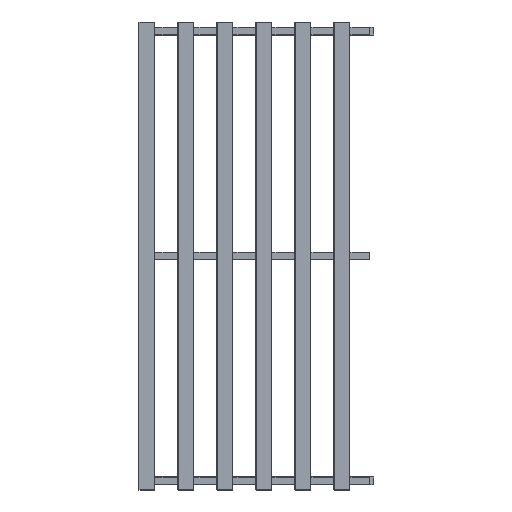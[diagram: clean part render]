
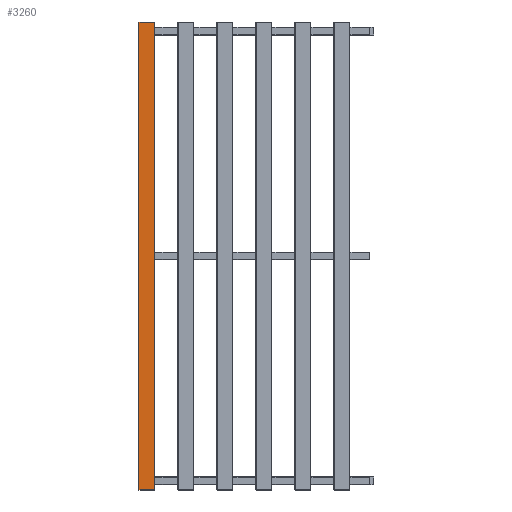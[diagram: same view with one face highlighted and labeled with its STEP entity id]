
A CAD part, top view. The second image highlights one B-rep face of the part: STEP entity #3260.
In plain terms, the highlighted planar face has unit normal (0, 0, 1) as drawn and (1, 0, 0) by its records, which use the part's own axes.
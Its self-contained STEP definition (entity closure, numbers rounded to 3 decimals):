
#12 = EDGE_LOOP ( 'NONE', ( #2824, #1882, #288, #311 ) ) ;
#163 = VERTEX_POINT ( 'NONE', #2551 ) ;
#288 = ORIENTED_EDGE ( 'NONE', *, *, #3580, .T. ) ;
#311 = ORIENTED_EDGE ( 'NONE', *, *, #2210, .T. ) ;
#356 = CARTESIAN_POINT ( 'NONE',  ( 10., -19.6, 599.5 ) ) ;
#489 = CARTESIAN_POINT ( 'NONE',  ( 10., -19.6, -599.5 ) ) ;
#732 = CARTESIAN_POINT ( 'NONE',  ( 10., 19.6, 599.5 ) ) ;
#762 = VECTOR ( 'NONE', #2776, 1000. ) ;
#767 = VECTOR ( 'NONE', #1169, 1000. ) ;
#1049 = VECTOR ( 'NONE', #3954, 1000. ) ;
#1100 = VECTOR ( 'NONE', #4030, 1000. ) ;
#1154 = CARTESIAN_POINT ( 'NONE',  ( 10., -21., 599.5 ) ) ;
#1169 = DIRECTION ( 'NONE',  ( 0., 1., 0. ) ) ;
#1455 = FACE_OUTER_BOUND ( 'NONE', #12, .T. ) ;
#1791 = LINE ( 'NONE', #2456, #762 ) ;
#1882 = ORIENTED_EDGE ( 'NONE', *, *, #3088, .T. ) ;
#2210 = EDGE_CURVE ( 'NONE', #163, #3062, #2692, .T. ) ;
#2328 = CARTESIAN_POINT ( 'NONE',  ( 10., 19.6, 599.5 ) ) ;
#2412 = DIRECTION ( 'NONE',  ( -1., 0., 0. ) ) ;
#2456 = CARTESIAN_POINT ( 'NONE',  ( 10., -21., 599.5 ) ) ;
#2481 = LINE ( 'NONE', #2777, #1100 ) ;
#2551 = CARTESIAN_POINT ( 'NONE',  ( 10., 19.6, -599.5 ) ) ;
#2670 = VERTEX_POINT ( 'NONE', #489 ) ;
#2692 = LINE ( 'NONE', #2328, #1049 ) ;
#2715 = CARTESIAN_POINT ( 'NONE',  ( 10., -21., -599.5 ) ) ;
#2751 = EDGE_CURVE ( 'NONE', #2939, #3062, #1791, .T. ) ;
#2776 = DIRECTION ( 'NONE',  ( 0., 1., 0. ) ) ;
#2777 = CARTESIAN_POINT ( 'NONE',  ( 10., -19.6, 599.5 ) ) ;
#2824 = ORIENTED_EDGE ( 'NONE', *, *, #2751, .F. ) ;
#2939 = VERTEX_POINT ( 'NONE', #356 ) ;
#3016 = LINE ( 'NONE', #2715, #767 ) ;
#3062 = VERTEX_POINT ( 'NONE', #732 ) ;
#3088 = EDGE_CURVE ( 'NONE', #2939, #2670, #2481, .T. ) ;
#3260 = ADVANCED_FACE ( 'NONE', ( #1455 ), #3979, .F. ) ;
#3580 = EDGE_CURVE ( 'NONE', #2670, #163, #3016, .T. ) ;
#3673 = DIRECTION ( 'NONE',  ( 0., 0., 1. ) ) ;
#3954 = DIRECTION ( 'NONE',  ( 0., 0., 1. ) ) ;
#3979 = PLANE ( 'NONE',  #4056 ) ;
#4030 = DIRECTION ( 'NONE',  ( 0., 0., -1. ) ) ;
#4056 = AXIS2_PLACEMENT_3D ( 'NONE', #1154, #2412, #3673 ) ;
